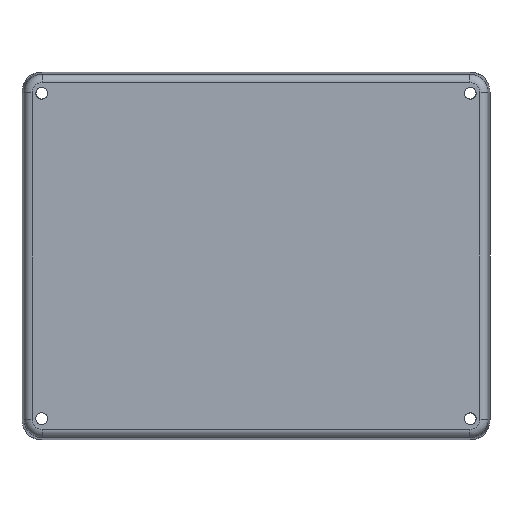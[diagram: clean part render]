
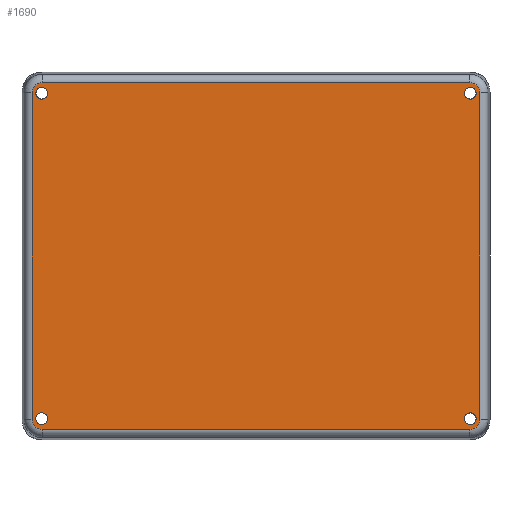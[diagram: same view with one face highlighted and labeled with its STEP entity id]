
A CAD part, front view. The second image highlights one B-rep face of the part: STEP entity #1690.
In plain terms, the highlighted planar face has unit normal (0, -1, 0).
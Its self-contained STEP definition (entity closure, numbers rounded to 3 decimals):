
#1 = VERTEX_POINT ( 'NONE', #2570 ) ;
#24 = VERTEX_POINT ( 'NONE', #1001 ) ;
#88 = CIRCLE ( 'NONE', #6278, 1.45 ) ;
#111 = EDGE_CURVE ( 'NONE', #4584, #4643, #88, .T. ) ;
#143 = CARTESIAN_POINT ( 'NONE',  ( -54.843, -50.4, -40. ) ) ;
#176 = CARTESIAN_POINT ( 'NONE',  ( -54.843, -50.4, 40. ) ) ;
#190 = CARTESIAN_POINT ( 'NONE',  ( 52.35, -50.4, -40. ) ) ;
#224 = CARTESIAN_POINT ( 'NONE',  ( 52.5, -50.4, -39.9 ) ) ;
#231 = DIRECTION ( 'NONE',  ( 0., 1., 0. ) ) ;
#239 = EDGE_CURVE ( 'NONE', #1020, #4094, #1259, .T. ) ;
#265 = CARTESIAN_POINT ( 'NONE',  ( -52.35, -50.4, 42.493 ) ) ;
#306 = AXIS2_PLACEMENT_3D ( 'NONE', #6537, #1933, #1404 ) ;
#339 = EDGE_LOOP ( 'NONE', ( #4106, #5044, #1106, #6085, #3702, #3034, #5415, #2323 ) ) ;
#390 = ORIENTED_EDGE ( 'NONE', *, *, #2260, .T. ) ;
#459 = DIRECTION ( 'NONE',  ( 0., 0., -1. ) ) ;
#512 = CIRCLE ( 'NONE', #1356, 1.45 ) ;
#609 = AXIS2_PLACEMENT_3D ( 'NONE', #5249, #6226, #2153 ) ;
#685 = CARTESIAN_POINT ( 'NONE',  ( -52.5, -50.4, -39.9 ) ) ;
#691 = DIRECTION ( 'NONE',  ( 0., 1., 0. ) ) ;
#694 = CARTESIAN_POINT ( 'NONE',  ( 52.5, -50.4, 41.35 ) ) ;
#696 = EDGE_CURVE ( 'NONE', #5790, #1797, #3399, .T. ) ;
#773 = VERTEX_POINT ( 'NONE', #3557 ) ;
#777 = ORIENTED_EDGE ( 'NONE', *, *, #988, .T. ) ;
#781 = CARTESIAN_POINT ( 'NONE',  ( 52.35, -50.4, 42.493 ) ) ;
#788 = CARTESIAN_POINT ( 'NONE',  ( 52.5, -50.4, 39.9 ) ) ;
#827 = AXIS2_PLACEMENT_3D ( 'NONE', #6093, #4103, #5149 ) ;
#932 = AXIS2_PLACEMENT_3D ( 'NONE', #4802, #231, #5808 ) ;
#988 = EDGE_CURVE ( 'NONE', #4094, #1020, #4562, .T. ) ;
#1001 = CARTESIAN_POINT ( 'NONE',  ( -52.35, -50.4, 42.493 ) ) ;
#1020 = VERTEX_POINT ( 'NONE', #694 ) ;
#1106 = ORIENTED_EDGE ( 'NONE', *, *, #696, .T. ) ;
#1205 = VERTEX_POINT ( 'NONE', #2434 ) ;
#1255 = CARTESIAN_POINT ( 'NONE',  ( -52.5, -50.4, 38.45 ) ) ;
#1259 = CIRCLE ( 'NONE', #306, 1.45 ) ;
#1268 = AXIS2_PLACEMENT_3D ( 'NONE', #1527, #6099, #6565 ) ;
#1356 = AXIS2_PLACEMENT_3D ( 'NONE', #5928, #3409, #1897 ) ;
#1361 = CIRCLE ( 'NONE', #5095, 2.493 ) ;
#1404 = DIRECTION ( 'NONE',  ( 0., 0., 1. ) ) ;
#1409 = CARTESIAN_POINT ( 'NONE',  ( -52.35, -50.4, -42.493 ) ) ;
#1484 = CARTESIAN_POINT ( 'NONE',  ( -52.5, -50.4, -41.35 ) ) ;
#1527 = CARTESIAN_POINT ( 'NONE',  ( -52.5, -50.4, 39.9 ) ) ;
#1554 = EDGE_CURVE ( 'NONE', #4643, #4584, #512, .T. ) ;
#1618 = VERTEX_POINT ( 'NONE', #4926 ) ;
#1674 = AXIS2_PLACEMENT_3D ( 'NONE', #788, #6414, #2269 ) ;
#1690 = ADVANCED_FACE ( 'NONE', ( #1988, #4573, #3642, #4039, #2087 ), #2056, .T. ) ;
#1786 = CIRCLE ( 'NONE', #1268, 1.45 ) ;
#1797 = VERTEX_POINT ( 'NONE', #143 ) ;
#1890 = AXIS2_PLACEMENT_3D ( 'NONE', #190, #5680, #4223 ) ;
#1893 = VERTEX_POINT ( 'NONE', #5241 ) ;
#1897 = DIRECTION ( 'NONE',  ( 0., 0., 1. ) ) ;
#1900 = EDGE_CURVE ( 'NONE', #5983, #1893, #3716, .T. ) ;
#1902 = LINE ( 'NONE', #1409, #4670 ) ;
#1933 = DIRECTION ( 'NONE',  ( 0., 1., 0. ) ) ;
#1946 = EDGE_CURVE ( 'NONE', #24, #5790, #1361, .T. ) ;
#1988 = FACE_OUTER_BOUND ( 'NONE', #339, .T. ) ;
#2044 = EDGE_CURVE ( 'NONE', #5735, #24, #3115, .T. ) ;
#2048 = EDGE_LOOP ( 'NONE', ( #390, #3200 ) ) ;
#2056 = PLANE ( 'NONE',  #827 ) ;
#2087 = FACE_BOUND ( 'NONE', #5648, .T. ) ;
#2096 = EDGE_CURVE ( 'NONE', #1, #1205, #3823, .T. ) ;
#2149 = EDGE_CURVE ( 'NONE', #1618, #5983, #1902, .T. ) ;
#2153 = DIRECTION ( 'NONE',  ( 0., 0., -1. ) ) ;
#2170 = CARTESIAN_POINT ( 'NONE',  ( 54.843, -50.4, 40. ) ) ;
#2259 = EDGE_LOOP ( 'NONE', ( #6366, #5656 ) ) ;
#2260 = EDGE_CURVE ( 'NONE', #773, #3360, #1786, .T. ) ;
#2269 = DIRECTION ( 'NONE',  ( 0., 0., 1. ) ) ;
#2285 = DIRECTION ( 'NONE',  ( 0., -1., 0. ) ) ;
#2323 = ORIENTED_EDGE ( 'NONE', *, *, #2454, .T. ) ;
#2327 = EDGE_LOOP ( 'NONE', ( #4081, #777 ) ) ;
#2434 = CARTESIAN_POINT ( 'NONE',  ( 52.5, -50.4, -38.45 ) ) ;
#2454 = EDGE_CURVE ( 'NONE', #5584, #5735, #3500, .T. ) ;
#2570 = CARTESIAN_POINT ( 'NONE',  ( 52.5, -50.4, -41.35 ) ) ;
#2612 = DIRECTION ( 'NONE',  ( 0., -1., 0. ) ) ;
#2862 = DIRECTION ( 'NONE',  ( 0., 0., -1. ) ) ;
#3034 = ORIENTED_EDGE ( 'NONE', *, *, #1900, .T. ) ;
#3067 = CIRCLE ( 'NONE', #3722, 1.45 ) ;
#3115 = LINE ( 'NONE', #265, #6066 ) ;
#3142 = DIRECTION ( 'NONE',  ( 0., 0., -1. ) ) ;
#3200 = ORIENTED_EDGE ( 'NONE', *, *, #6034, .T. ) ;
#3314 = CARTESIAN_POINT ( 'NONE',  ( -52.5, -50.4, 39.9 ) ) ;
#3360 = VERTEX_POINT ( 'NONE', #1255 ) ;
#3399 = LINE ( 'NONE', #5536, #4790 ) ;
#3409 = DIRECTION ( 'NONE',  ( 0., 1., 0. ) ) ;
#3500 = CIRCLE ( 'NONE', #3612, 2.493 ) ;
#3510 = CIRCLE ( 'NONE', #4370, 1.45 ) ;
#3557 = CARTESIAN_POINT ( 'NONE',  ( -52.5, -50.4, 41.35 ) ) ;
#3612 = AXIS2_PLACEMENT_3D ( 'NONE', #4179, #2285, #2862 ) ;
#3642 = FACE_BOUND ( 'NONE', #2327, .T. ) ;
#3702 = ORIENTED_EDGE ( 'NONE', *, *, #2149, .T. ) ;
#3716 = CIRCLE ( 'NONE', #1890, 2.493 ) ;
#3722 = AXIS2_PLACEMENT_3D ( 'NONE', #224, #691, #4293 ) ;
#3819 = CARTESIAN_POINT ( 'NONE',  ( 52.5, -50.4, 38.45 ) ) ;
#3823 = CIRCLE ( 'NONE', #932, 1.45 ) ;
#3954 = DIRECTION ( 'NONE',  ( 1., 0., 0. ) ) ;
#4039 = FACE_BOUND ( 'NONE', #2048, .T. ) ;
#4081 = ORIENTED_EDGE ( 'NONE', *, *, #239, .T. ) ;
#4094 = VERTEX_POINT ( 'NONE', #3819 ) ;
#4103 = DIRECTION ( 'NONE',  ( 0., -1., 0. ) ) ;
#4106 = ORIENTED_EDGE ( 'NONE', *, *, #2044, .T. ) ;
#4179 = CARTESIAN_POINT ( 'NONE',  ( 52.35, -50.4, 40. ) ) ;
#4223 = DIRECTION ( 'NONE',  ( 0., 0., -1. ) ) ;
#4293 = DIRECTION ( 'NONE',  ( 0., 0., 1. ) ) ;
#4295 = EDGE_CURVE ( 'NONE', #1797, #1618, #6271, .T. ) ;
#4344 = DIRECTION ( 'NONE',  ( 0., 0., 1. ) ) ;
#4370 = AXIS2_PLACEMENT_3D ( 'NONE', #3314, #5366, #4418 ) ;
#4418 = DIRECTION ( 'NONE',  ( 0., 0., 1. ) ) ;
#4434 = CARTESIAN_POINT ( 'NONE',  ( -52.5, -50.4, -38.45 ) ) ;
#4562 = CIRCLE ( 'NONE', #1674, 1.45 ) ;
#4573 = FACE_BOUND ( 'NONE', #2259, .T. ) ;
#4584 = VERTEX_POINT ( 'NONE', #1484 ) ;
#4610 = CARTESIAN_POINT ( 'NONE',  ( 54.843, -50.4, 40. ) ) ;
#4643 = VERTEX_POINT ( 'NONE', #4434 ) ;
#4670 = VECTOR ( 'NONE', #3954, 1000. ) ;
#4790 = VECTOR ( 'NONE', #459, 1000. ) ;
#4802 = CARTESIAN_POINT ( 'NONE',  ( 52.5, -50.4, -39.9 ) ) ;
#4859 = DIRECTION ( 'NONE',  ( 0., 1., 0. ) ) ;
#4926 = CARTESIAN_POINT ( 'NONE',  ( -52.35, -50.4, -42.493 ) ) ;
#5044 = ORIENTED_EDGE ( 'NONE', *, *, #1946, .T. ) ;
#5048 = EDGE_CURVE ( 'NONE', #1893, #5584, #5671, .T. ) ;
#5095 = AXIS2_PLACEMENT_3D ( 'NONE', #5137, #2612, #3142 ) ;
#5116 = VECTOR ( 'NONE', #5234, 1000. ) ;
#5137 = CARTESIAN_POINT ( 'NONE',  ( -52.35, -50.4, 40. ) ) ;
#5149 = DIRECTION ( 'NONE',  ( 0., 0., -1. ) ) ;
#5234 = DIRECTION ( 'NONE',  ( 0., 0., 1. ) ) ;
#5241 = CARTESIAN_POINT ( 'NONE',  ( 54.843, -50.4, -40. ) ) ;
#5249 = CARTESIAN_POINT ( 'NONE',  ( -52.35, -50.4, -40. ) ) ;
#5267 = EDGE_CURVE ( 'NONE', #1205, #1, #3067, .T. ) ;
#5340 = DIRECTION ( 'NONE',  ( -1., 0., 0. ) ) ;
#5366 = DIRECTION ( 'NONE',  ( 0., 1., 0. ) ) ;
#5415 = ORIENTED_EDGE ( 'NONE', *, *, #5048, .T. ) ;
#5536 = CARTESIAN_POINT ( 'NONE',  ( -54.843, -50.4, 40. ) ) ;
#5584 = VERTEX_POINT ( 'NONE', #4610 ) ;
#5648 = EDGE_LOOP ( 'NONE', ( #6335, #6560 ) ) ;
#5656 = ORIENTED_EDGE ( 'NONE', *, *, #2096, .T. ) ;
#5671 = LINE ( 'NONE', #2170, #5116 ) ;
#5680 = DIRECTION ( 'NONE',  ( 0., -1., 0. ) ) ;
#5735 = VERTEX_POINT ( 'NONE', #781 ) ;
#5790 = VERTEX_POINT ( 'NONE', #176 ) ;
#5808 = DIRECTION ( 'NONE',  ( 0., 0., 1. ) ) ;
#5928 = CARTESIAN_POINT ( 'NONE',  ( -52.5, -50.4, -39.9 ) ) ;
#5983 = VERTEX_POINT ( 'NONE', #6340 ) ;
#6034 = EDGE_CURVE ( 'NONE', #3360, #773, #3510, .T. ) ;
#6066 = VECTOR ( 'NONE', #5340, 1000. ) ;
#6085 = ORIENTED_EDGE ( 'NONE', *, *, #4295, .T. ) ;
#6093 = CARTESIAN_POINT ( 'NONE',  ( -52.35, -50.4, 40. ) ) ;
#6099 = DIRECTION ( 'NONE',  ( 0., 1., 0. ) ) ;
#6226 = DIRECTION ( 'NONE',  ( 0., -1., 0. ) ) ;
#6271 = CIRCLE ( 'NONE', #609, 2.493 ) ;
#6278 = AXIS2_PLACEMENT_3D ( 'NONE', #685, #4859, #4344 ) ;
#6335 = ORIENTED_EDGE ( 'NONE', *, *, #1554, .T. ) ;
#6340 = CARTESIAN_POINT ( 'NONE',  ( 52.35, -50.4, -42.493 ) ) ;
#6366 = ORIENTED_EDGE ( 'NONE', *, *, #5267, .T. ) ;
#6414 = DIRECTION ( 'NONE',  ( 0., 1., 0. ) ) ;
#6537 = CARTESIAN_POINT ( 'NONE',  ( 52.5, -50.4, 39.9 ) ) ;
#6560 = ORIENTED_EDGE ( 'NONE', *, *, #111, .T. ) ;
#6565 = DIRECTION ( 'NONE',  ( 0., 0., 1. ) ) ;
